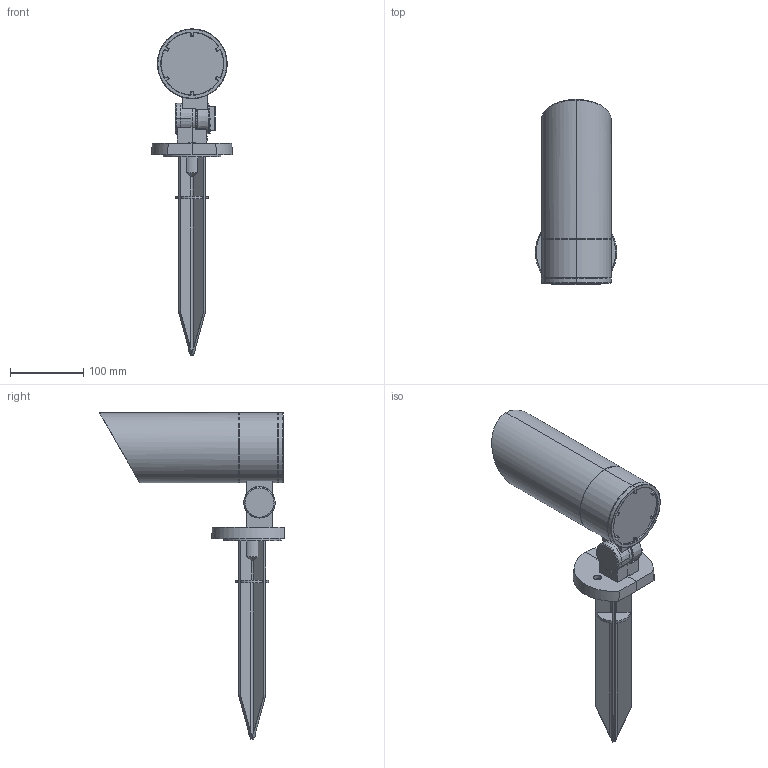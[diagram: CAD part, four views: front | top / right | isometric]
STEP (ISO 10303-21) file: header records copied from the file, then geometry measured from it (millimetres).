
FILE_DESCRIPTION((''),'2;1');
FILE_NAME('3TP___-100636__ASM_1_ASM_ASM','2024-11-23T',('C028'),(''),'CREO PARAMETRIC BY PTC INC, 2014190','CREO PARAMETRIC BY PTC INC, 2014190','');
FILE_SCHEMA(('CONFIG_CONTROL_DESIGN'));
Length unit declared in the file: millimetre
Products named in the file (27): __30__1_1; 3TP____-25414__1_1; __3629__1_1; 3TP____-62599__1_1; __89__1_1; 3TP_______2_1; 3TP____1_1; _3EJCHIK_-_SCALE1___1_1; CUT-REVOLVE11__1_1; 3TP___2___ASM_1_ASM_1_ASM; __77__1_1; PART4_0___1_1; GUI-JIAO-QUAN_1; ZHI-JIA-A_1; ZHI-JIA-B_1; TOU-JIAN_1; B100_ASM_1_ASM; 3TP_2; 3TP-B__1; _7G_1_70_1_1; M6_28_1_1; GUANZIZUJIAN_ASM_16_ASM_1_1; 17_ASM_48_ASM_1_ASM_1_ASM; 17_ASM_ASM_1_ASM_1_ASM; _17A_ASM_1_ASM; 3TP___-100636__ASM_1_ASM_7_ASM; 3TP___-100636__ASM_1_ASM_ASM
Assembly tree (27 placements, depth 6):
  3TP___-100636__ASM_1_ASM_ASM
    3TP___-100636__ASM_1_ASM_7_ASM
      __30__1_1
      3TP____-25414__1_1
      __3629__1_1
      3TP____-62599__1_1
      __89__1_1
      3TP_______2_1
      3TP____1_1
      3TP___2___ASM_1_ASM_1_ASM
        _3EJCHIK_-_SCALE1___1_1
        CUT-REVOLVE11__1_1
      __77__1_1
      PART4_0___1_1
      GUI-JIAO-QUAN_1
      B100_ASM_1_ASM
        ZHI-JIA-A_1
        ZHI-JIA-B_1
        TOU-JIAN_1
      3TP_2
      3TP-B__1
      _17A_ASM_1_ASM
        17_ASM_ASM_1_ASM_1_ASM
          17_ASM_48_ASM_1_ASM_1_ASM
            _7G_1_70_1_1
            M6_28_1_1  x2
            GUANZIZUJIAN_ASM_16_ASM_1_1
Bounding box: 110.8 x 251.98 x 444.56 mm (x, y, z)
Volume: 860070.2 mm3; surface area: 424439.8 mm2
Topology: 20 solids, 20 shells, 2185 faces, 5742 edges, 3549 vertices
Faces by surface type: bspline 639, cylinder 528, plane 526, cone 408, torus 57, sphere 27
Entity records: 106876 total; most frequent: CARTESIAN_POINT 60272, ORIENTED_EDGE 10696, DIRECTION 8059, EDGE_CURVE 5348, VERTEX_POINT 3352, AXIS2_PLACEMENT_3D 3123, EDGE_LOOP 2196, FACE_OUTER_BOUND 2083
